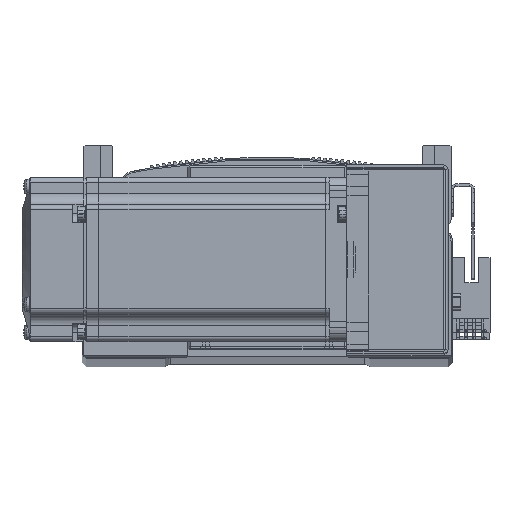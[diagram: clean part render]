
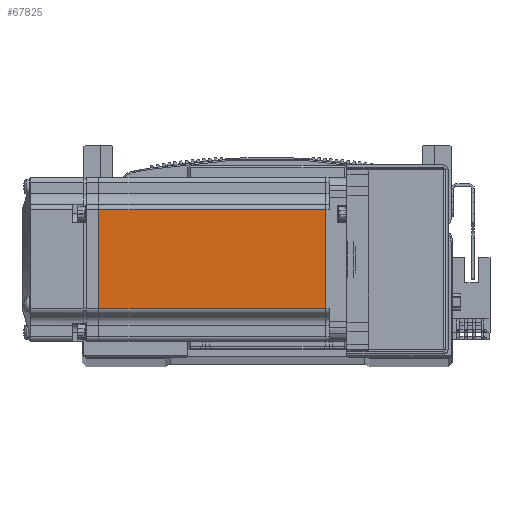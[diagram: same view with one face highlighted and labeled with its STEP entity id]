
A CAD part, top view. The second image highlights one B-rep face of the part: STEP entity #67825.
In plain terms, the highlighted planar face has unit normal (0, 0, 1) as drawn and (0, -1, 0) by its records, which use the part's own axes.
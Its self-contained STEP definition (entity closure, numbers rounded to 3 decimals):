
#14320 = AXIS2_PLACEMENT_3D ( 'NONE', #35982, #36105, #36142 ) ;
#17276 = VERTEX_POINT ( 'NONE', #31024 ) ;
#17297 = VERTEX_POINT ( 'NONE', #31002 ) ;
#17306 = VERTEX_POINT ( 'NONE', #31045 ) ;
#17322 = VERTEX_POINT ( 'NONE', #30973 ) ;
#20774 = LINE ( 'NONE', #36610, #20788 ) ;
#20788 = VECTOR ( 'NONE', #36642, 1000. ) ;
#20851 = VECTOR ( 'NONE', #34263, 1000. ) ;
#20876 = LINE ( 'NONE', #34311, #20877 ) ;
#20877 = VECTOR ( 'NONE', #34252, 1000. ) ;
#20892 = LINE ( 'NONE', #34259, #20851 ) ;
#20912 = LINE ( 'NONE', #37422, #20921 ) ;
#20921 = VECTOR ( 'NONE', #37542, 1000. ) ;
#30973 = CARTESIAN_POINT ( 'NONE',  ( -7.75, -30., -18. ) ) ;
#31002 = CARTESIAN_POINT ( 'NONE',  ( -90.45, -30., 18. ) ) ;
#31024 = CARTESIAN_POINT ( 'NONE',  ( -7.75, -30., 18. ) ) ;
#31045 = CARTESIAN_POINT ( 'NONE',  ( -90.45, -30., -18. ) ) ;
#34252 = DIRECTION ( 'NONE',  ( 0., 0., -1. ) ) ;
#34259 = CARTESIAN_POINT ( 'NONE',  ( -6.5, -30., 18. ) ) ;
#34263 = DIRECTION ( 'NONE',  ( -1., 0., 0. ) ) ;
#34311 = CARTESIAN_POINT ( 'NONE',  ( -90.45, -30., 0. ) ) ;
#35977 = PLANE ( 'NONE',  #14320 ) ;
#35982 = CARTESIAN_POINT ( 'NONE',  ( -6.5, -30., -25. ) ) ;
#36105 = DIRECTION ( 'NONE',  ( 0., -1., 0. ) ) ;
#36142 = DIRECTION ( 'NONE',  ( 0., 0., -1. ) ) ;
#36610 = CARTESIAN_POINT ( 'NONE',  ( -7.75, -30., 0. ) ) ;
#36642 = DIRECTION ( 'NONE',  ( 0., 0., -1. ) ) ;
#37422 = CARTESIAN_POINT ( 'NONE',  ( -6.5, -30., -18. ) ) ;
#37542 = DIRECTION ( 'NONE',  ( -1., 0., 0. ) ) ;
#40681 = FACE_OUTER_BOUND ( 'NONE', #81730, .T. ) ;
#45627 = ORIENTED_EDGE ( 'NONE', *, *, #72492, .T. ) ;
#45671 = ORIENTED_EDGE ( 'NONE', *, *, #72498, .T. ) ;
#45705 = ORIENTED_EDGE ( 'NONE', *, *, #72550, .F. ) ;
#45755 = ORIENTED_EDGE ( 'NONE', *, *, #72463, .F. ) ;
#67825 = ADVANCED_FACE ( 'NONE', ( #40681 ), #35977, .T. ) ;
#72463 = EDGE_CURVE ( 'NONE', #17276, #17322, #20774, .T. ) ;
#72492 = EDGE_CURVE ( 'NONE', #17276, #17297, #20892, .T. ) ;
#72498 = EDGE_CURVE ( 'NONE', #17297, #17306, #20876, .T. ) ;
#72550 = EDGE_CURVE ( 'NONE', #17322, #17306, #20912, .T. ) ;
#81730 = EDGE_LOOP ( 'NONE', ( #45755, #45627, #45671, #45705 ) ) ;
